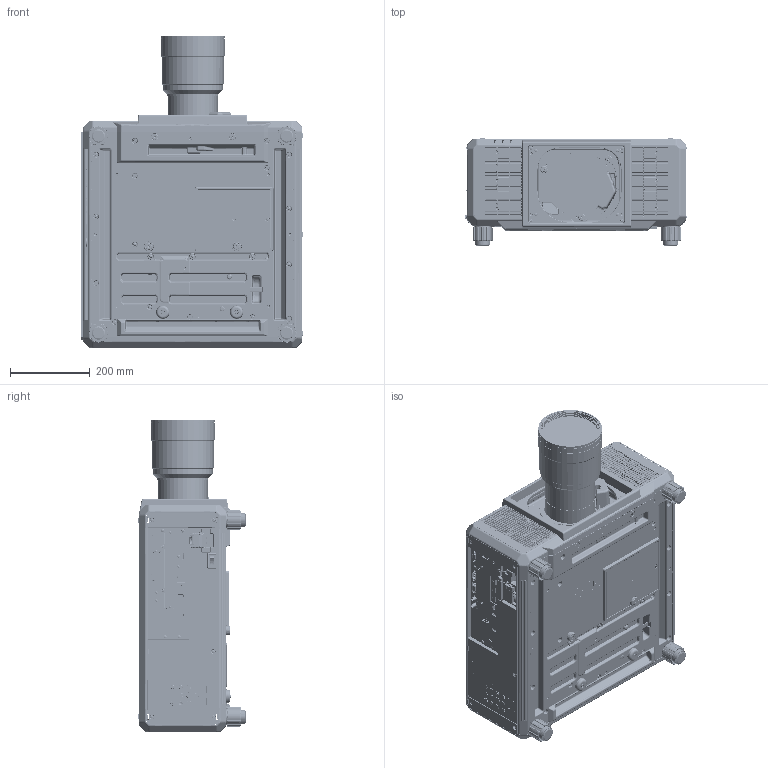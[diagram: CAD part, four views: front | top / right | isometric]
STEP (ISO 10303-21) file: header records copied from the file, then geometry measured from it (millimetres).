
FILE_DESCRIPTION(/* description */ (''),/* implementation_level */ '2;1');
FILE_NAME(/* name */ '01103236_ZA00_RQ25K_D3LEW60_FACE.stp',/* time_stamp */ '2022-12-05T13:39:50+09:00',/* author */ (''),/* organization */ (''),/* preprocessor_version */ 'ST-DEVELOPER v16',/* originating_system */ 'SIEMENS PLM Software NX 10.0',/* authorisation */ '');
FILE_SCHEMA (('AUTOMOTIVE_DESIGN { 1 0 10303 214 3 1 1 1 }'));
Products named in the file (1): 01103236_ZA00
Bounding box: 556.3 x 269 x 783.15 mm (x, y, z)
Surface area: 1969113.1 mm2 (no closed solid volume)
Topology: 0 solids, 2167 shells, 10345 faces, 46460 edges, 37684 vertices
Faces by surface type: plane 5225, cylinder 4046, torus 424, bspline 391, cone 155, sphere 102, extrusion 2
Full cylindrical faces by diameter (mm): 1.02 x2, 3 x3, 3.6 x2, 5 x2, 5.5 x2, 8 x3, 9.5 x2, 14.9 x1, 15 x1, 37.2 x4, 40 x4, 125.2 x1, 126.8 x1, 129.2 x2, 138.2 x1, 140 x1, 141.4 x1, 143.2 x1, 145 x1, 146.2 x1, 148 x1, 150 x1, 154 x2, 155.6 x1, 155.7 x1, 156 x1, 158 x2, 160 x3
Entity records: 565517 total; most frequent: CARTESIAN_POINT 130090, DIRECTION 76461, ORIENTED_EDGE 56490, EDGE_CURVE 46001, VERTEX_POINT 37545, VECTOR 26033, LINE 26031, AXIS2_PLACEMENT_3D 25214
